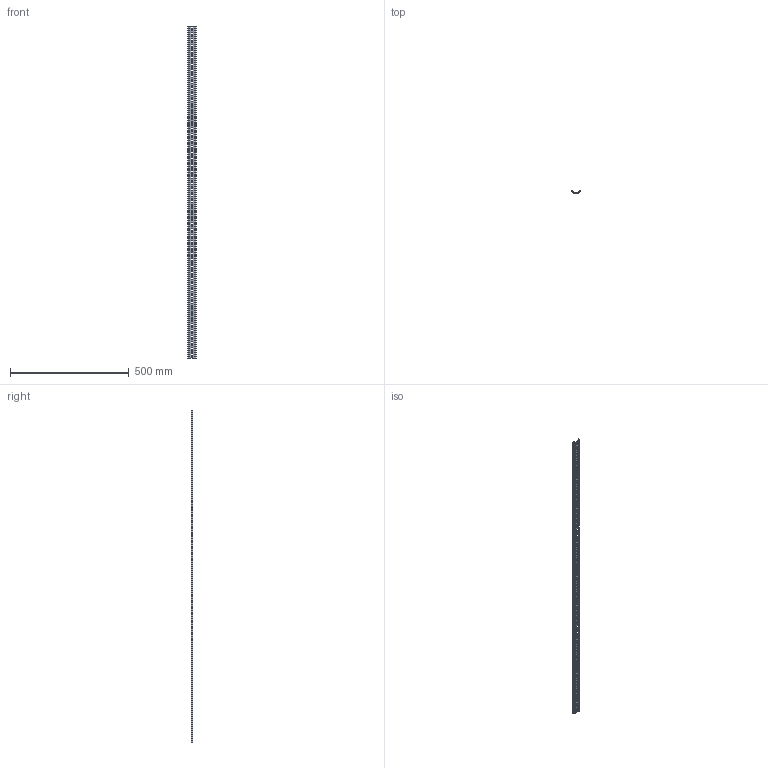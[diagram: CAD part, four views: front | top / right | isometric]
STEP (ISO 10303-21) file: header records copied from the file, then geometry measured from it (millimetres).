
FILE_DESCRIPTION (( 'STEP AP214' ), '1' );
FILE_NAME ('DIN-ðåéêà 1400ìì õ 0,8 ìì.STEP', '2025-10-22T12:57:30', ( '' ), ( '' ), 'SwSTEP 2.0', 'SolidWorks 2018', '' );
FILE_SCHEMA (( 'AUTOMOTIVE_DESIGN' ));
Length unit declared in the file: millimetre
Products named in the file (1): DIN-ðåéêà 1400ìì õ 0,8 ìì
Bounding box: 35.2 x 8.3 x 1400 mm (x, y, z)
Volume: 46079.6 mm3; surface area: 119429.7 mm2
Topology: 1 solids, 1 shells, 318 faces, 916 edges, 600 vertices
Faces by surface type: cylinder 176, plane 142
Entity records: 10774 total; most frequent: DIRECTION 1906, CARTESIAN_POINT 1835, ORIENTED_EDGE 1832, EDGE_CURVE 916, AXIS2_PLACEMENT_3D 671, VERTEX_POINT 600, LINE 564, VECTOR 564
